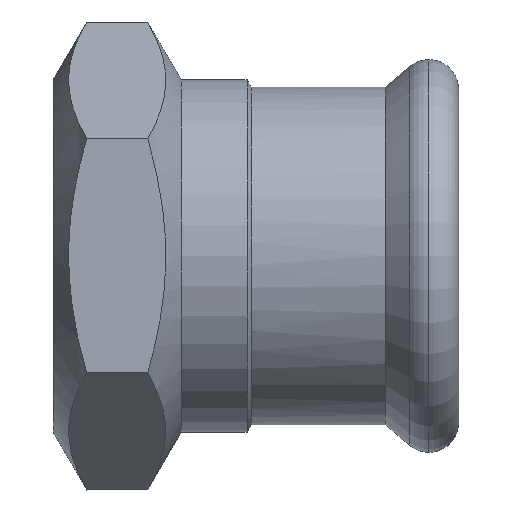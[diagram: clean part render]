
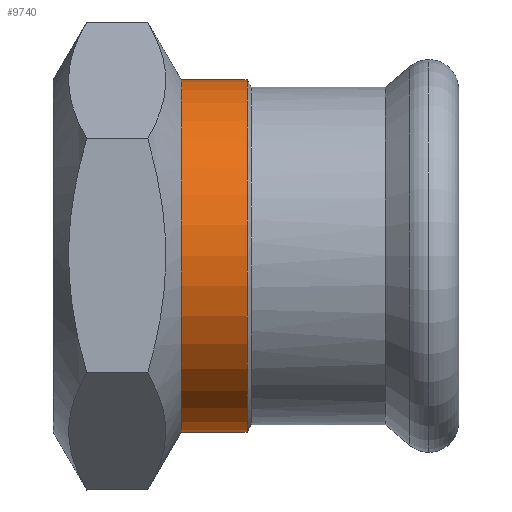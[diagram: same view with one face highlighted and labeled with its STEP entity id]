
A CAD part, top view. The second image highlights one B-rep face of the part: STEP entity #9740.
In plain terms, the highlighted cylindrical face has radius 19.996 mm (diameter 39.991 mm), a partial arc.
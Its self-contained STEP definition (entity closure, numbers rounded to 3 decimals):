
#5710=CARTESIAN_POINT('',(253.896,24.881,
0.));
#5720=VERTEX_POINT('',#5710);
#5750=CARTESIAN_POINT('',(253.896,44.877,0.));
#5760=DIRECTION('',(1.,0.,0.));
#5770=DIRECTION('',(0.,-1.,0.));
#5780=AXIS2_PLACEMENT_3D('',#5750,#5760,#5770);
#5790=CIRCLE('',#5780,19.996);
#5800=CARTESIAN_POINT('',(253.896,64.873,0.));
#5810=VERTEX_POINT('',#5800);
#5820=EDGE_CURVE('',#5810,#5720,#5790,.T.);
#9430=CARTESIAN_POINT('',(250.156,44.877,0.));
#9440=DIRECTION('',(-1.,0.,0.));
#9450=DIRECTION('',(0.,1.,0.));
#9460=AXIS2_PLACEMENT_3D('',#9430,#9440,#9450);
#9470=CYLINDRICAL_SURFACE('',#9460,19.996);
#9480=CARTESIAN_POINT('',(250.156,64.873,0.));
#9490=DIRECTION('',(-1.,0.,0.));
#9500=VECTOR('',#9490,1.);
#9510=LINE('',#9480,#9500);
#9520=CARTESIAN_POINT('',(246.417,64.873,0.));
#9530=VERTEX_POINT('',#9520);
#9540=EDGE_CURVE('',#5810,#9530,#9510,.T.);
#9550=ORIENTED_EDGE('',*,*,#9540,.T.);
#9560=ORIENTED_EDGE('',*,*,#5820,.F.);
#9570=CARTESIAN_POINT('',(250.156,24.881,
0.));
#9580=DIRECTION('',(-1.,0.,0.));
#9590=VECTOR('',#9580,1.);
#9600=LINE('',#9570,#9590);
#9610=CARTESIAN_POINT('',(246.417,24.881,
0.));
#9620=VERTEX_POINT('',#9610);
#9630=EDGE_CURVE('',#5720,#9620,#9600,.T.);
#9640=ORIENTED_EDGE('',*,*,#9630,.F.);
#9650=CARTESIAN_POINT('',(246.417,44.877,0.));
#9660=DIRECTION('',(1.,0.,0.));
#9670=DIRECTION('',(0.,-1.,0.));
#9680=AXIS2_PLACEMENT_3D('',#9650,#9660,#9670);
#9690=CIRCLE('',#9680,19.996);
#9700=EDGE_CURVE('',#9530,#9620,#9690,.T.);
#9710=ORIENTED_EDGE('',*,*,#9700,.T.);
#9720=EDGE_LOOP('',(#9710,#9640,#9560,#9550));
#9730=FACE_OUTER_BOUND('',#9720,.T.);
#9740=ADVANCED_FACE('',(#9730),#9470,.T.);
